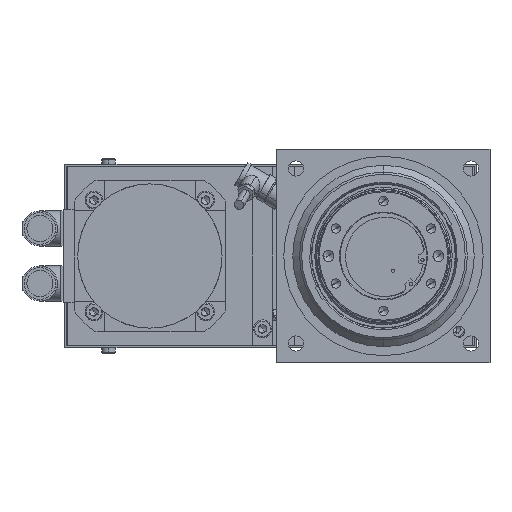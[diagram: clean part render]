
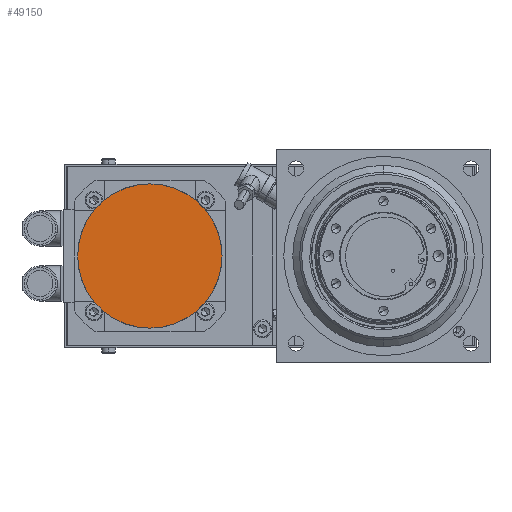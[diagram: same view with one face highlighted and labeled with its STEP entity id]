
A CAD part, front view. The second image highlights one B-rep face of the part: STEP entity #49150.
In plain terms, the highlighted planar face has unit normal (0, -1, 0).
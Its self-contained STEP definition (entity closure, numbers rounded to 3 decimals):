
#6293 = VERTEX_POINT ( 'NONE', #47295 ) ;
#7578 = AXIS2_PLACEMENT_3D ( 'NONE', #11324, #53486, #17394 ) ;
#9251 = CARTESIAN_POINT ( 'NONE',  ( -98.751, -20.879, 97.194 ) ) ;
#10011 = EDGE_CURVE ( 'NONE', #57947, #6293, #59413, .T. ) ;
#11324 = CARTESIAN_POINT ( 'NONE',  ( -98.751, -20.879, 97.194 ) ) ;
#15302 = DIRECTION ( 'NONE',  ( -1., 0., 0. ) ) ;
#17394 = DIRECTION ( 'NONE',  ( -1., 0., 0. ) ) ;
#17481 = CARTESIAN_POINT ( 'NONE',  ( -43.751, -20.879, 152.194 ) ) ;
#20921 = FACE_OUTER_BOUND ( 'NONE', #66129, .T. ) ;
#21024 = EDGE_CURVE ( 'NONE', #6293, #57947, #70148, .T. ) ;
#23529 = DIRECTION ( 'NONE',  ( 1., 0., 0. ) ) ;
#25274 = ORIENTED_EDGE ( 'NONE', *, *, #21024, .T. ) ;
#35124 = PLANE ( 'NONE',  #65338 ) ;
#47295 = CARTESIAN_POINT ( 'NONE',  ( -151.251, -20.879, 97.194 ) ) ;
#49150 = ADVANCED_FACE ( 'NONE', ( #20921 ), #35124, .F. ) ;
#51409 = DIRECTION ( 'NONE',  ( 0., -1., 0. ) ) ;
#52669 = ORIENTED_EDGE ( 'NONE', *, *, #10011, .T. ) ;
#53486 = DIRECTION ( 'NONE',  ( 0., -1., 0. ) ) ;
#57947 = VERTEX_POINT ( 'NONE', #60330 ) ;
#59413 = CIRCLE ( 'NONE', #7578, 52.5 ) ;
#59543 = DIRECTION ( 'NONE',  ( 0., 1., 0. ) ) ;
#60330 = CARTESIAN_POINT ( 'NONE',  ( -46.251, -20.879, 97.194 ) ) ;
#65338 = AXIS2_PLACEMENT_3D ( 'NONE', #17481, #59543, #23529 ) ;
#66129 = EDGE_LOOP ( 'NONE', ( #25274, #52669 ) ) ;
#66819 = AXIS2_PLACEMENT_3D ( 'NONE', #9251, #51409, #15302 ) ;
#70148 = CIRCLE ( 'NONE', #66819, 52.5 ) ;
